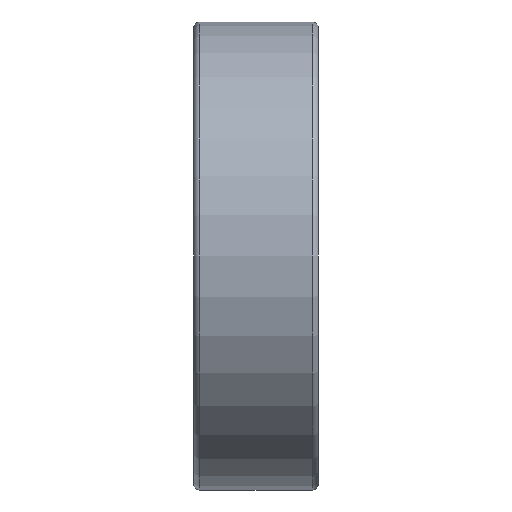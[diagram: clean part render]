
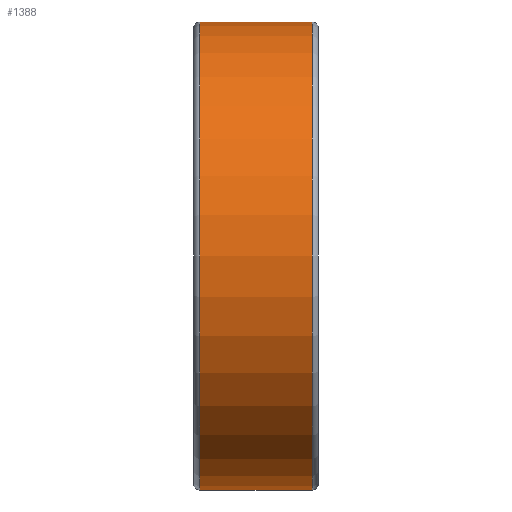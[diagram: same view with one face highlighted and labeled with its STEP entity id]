
A CAD part, front view. The second image highlights one B-rep face of the part: STEP entity #1388.
In plain terms, the highlighted cylindrical face has radius 74.963 mm (diameter 149.926 mm), a partial arc.
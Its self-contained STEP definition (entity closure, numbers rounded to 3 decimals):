
#19 = CARTESIAN_POINT ( 'NONE',  ( 18., 0., 0. ) ) ;
#126 = CARTESIAN_POINT ( 'NONE',  ( 18., 0., 74.963 ) ) ;
#143 = DIRECTION ( 'NONE',  ( 0., 0., 1. ) ) ;
#173 = CARTESIAN_POINT ( 'NONE',  ( 18., 0., -74.963 ) ) ;
#190 = LINE ( 'NONE', #1006, #990 ) ;
#251 = VECTOR ( 'NONE', #688, 1000. ) ;
#268 = VERTEX_POINT ( 'NONE', #173 ) ;
#272 = AXIS2_PLACEMENT_3D ( 'NONE', #558, #547, #1205 ) ;
#287 = CIRCLE ( 'NONE', #384, 74.963 ) ;
#288 = CYLINDRICAL_SURFACE ( 'NONE', #952, 74.963 ) ;
#384 = AXIS2_PLACEMENT_3D ( 'NONE', #19, #553, #752 ) ;
#474 = ORIENTED_EDGE ( 'NONE', *, *, #1261, .F. ) ;
#479 = DIRECTION ( 'NONE',  ( -1., 0., 0. ) ) ;
#547 = DIRECTION ( 'NONE',  ( -1., 0., 0. ) ) ;
#553 = DIRECTION ( 'NONE',  ( -1., 0., 0. ) ) ;
#558 = CARTESIAN_POINT ( 'NONE',  ( -18., 0., 0. ) ) ;
#598 = VERTEX_POINT ( 'NONE', #1089 ) ;
#614 = ORIENTED_EDGE ( 'NONE', *, *, #751, .T. ) ;
#665 = DIRECTION ( 'NONE',  ( -1., 0., 0. ) ) ;
#688 = DIRECTION ( 'NONE',  ( -1., 0., 0. ) ) ;
#751 = EDGE_CURVE ( 'NONE', #268, #1178, #287, .T. ) ;
#752 = DIRECTION ( 'NONE',  ( 0., 0., 1. ) ) ;
#817 = EDGE_CURVE ( 'NONE', #1178, #598, #190, .T. ) ;
#944 = LINE ( 'NONE', #1007, #251 ) ;
#952 = AXIS2_PLACEMENT_3D ( 'NONE', #1354, #479, #143 ) ;
#990 = VECTOR ( 'NONE', #665, 1000. ) ;
#1000 = ORIENTED_EDGE ( 'NONE', *, *, #817, .T. ) ;
#1006 = CARTESIAN_POINT ( 'NONE',  ( -24.199, 0., 74.963 ) ) ;
#1007 = CARTESIAN_POINT ( 'NONE',  ( -24.199, 0., -74.963 ) ) ;
#1018 = VERTEX_POINT ( 'NONE', #1302 ) ;
#1051 = EDGE_LOOP ( 'NONE', ( #1341, #614, #1000, #474 ) ) ;
#1089 = CARTESIAN_POINT ( 'NONE',  ( -18., 0., 74.963 ) ) ;
#1128 = CIRCLE ( 'NONE', #272, 74.963 ) ;
#1166 = FACE_OUTER_BOUND ( 'NONE', #1051, .T. ) ;
#1178 = VERTEX_POINT ( 'NONE', #126 ) ;
#1187 = EDGE_CURVE ( 'NONE', #268, #1018, #944, .T. ) ;
#1205 = DIRECTION ( 'NONE',  ( 0., 0., 1. ) ) ;
#1261 = EDGE_CURVE ( 'NONE', #1018, #598, #1128, .T. ) ;
#1302 = CARTESIAN_POINT ( 'NONE',  ( -18., 0., -74.963 ) ) ;
#1341 = ORIENTED_EDGE ( 'NONE', *, *, #1187, .F. ) ;
#1354 = CARTESIAN_POINT ( 'NONE',  ( -24.199, 0., 0. ) ) ;
#1388 = ADVANCED_FACE ( 'NONE', ( #1166 ), #288, .T. ) ;
